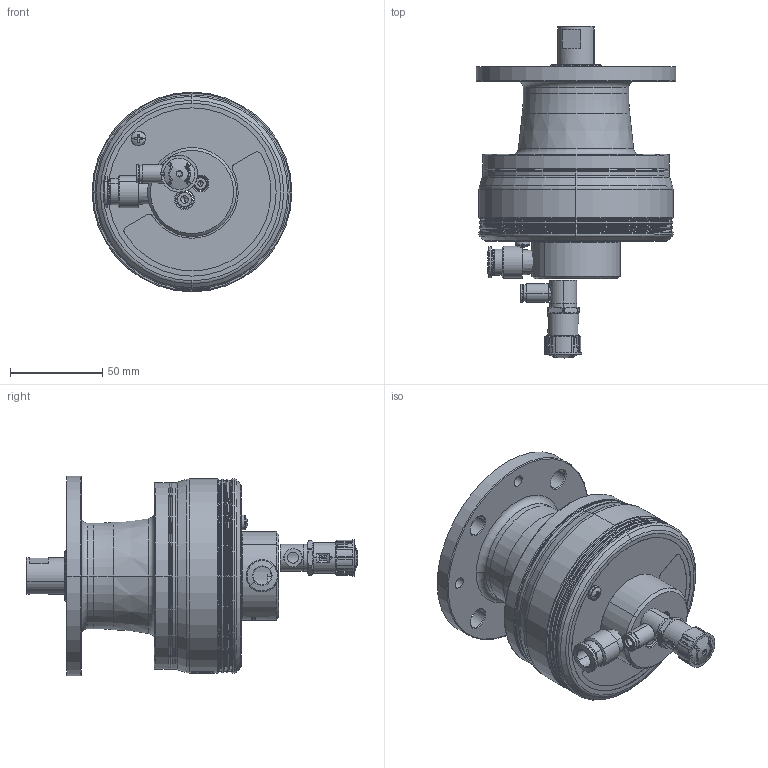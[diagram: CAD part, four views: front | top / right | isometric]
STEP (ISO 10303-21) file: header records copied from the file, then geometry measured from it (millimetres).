
FILE_DESCRIPTION (( 'STEP AP214' ), '1' );
FILE_NAME ('eco-Drive 450.STEP', '2020-04-07T09:38:28', ( '' ), ( '' ), 'SwSTEP 2.0', 'SolidWorks 2019', '' );
FILE_SCHEMA (( 'AUTOMOTIVE_DESIGN' ));
Length unit declared in the file: millimetre
Products named in the file (1): eco-Drive 450
Bounding box: 108 x 179.62 x 108 mm (x, y, z)
Surface area: 71562.6 mm2 (no closed solid volume)
Topology: 0 solids, 31 shells, 721 faces, 2781 edges, 2005 vertices
Faces by surface type: plane 222, cylinder 201, bspline 125, cone 103, torus 68, sphere 2
Entity records: 52653 total; most frequent: CARTESIAN_POINT 23795, ORIENTED_EDGE 4235, DIRECTION 3726, EDGE_CURVE 2763, VERTEX_POINT 2005, AXIS2_PLACEMENT_3D 1430, B_SPLINE_CURVE_WITH_KNOTS 1048, VECTOR 866
